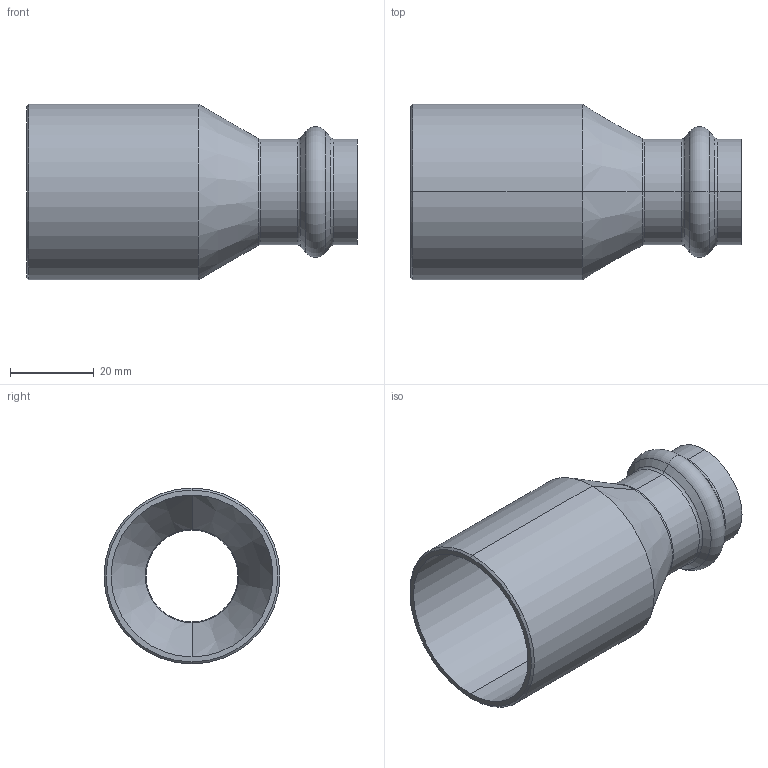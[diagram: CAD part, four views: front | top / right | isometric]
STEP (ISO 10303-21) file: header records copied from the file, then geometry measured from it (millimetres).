
FILE_DESCRIPTION (( 'STEP AP203' ), '1' );
FILE_NAME ('SP5243 42-22.STEP', '2017-04-24T09:11:21', ( '' ), ( '' ), 'SwSTEP 2.0', 'SolidWorks 2016', '' );
FILE_SCHEMA (( 'CONFIG_CONTROL_DESIGN' ));
Length unit declared in the file: millimetre
Products named in the file (1): SP5243 42-22
Bounding box: 79 x 42 x 42 mm (x, y, z)
Volume: 14607.2 mm3; surface area: 18060.5 mm2
Topology: 1 solids, 1 shells, 48 faces, 96 edges, 50 vertices
Faces by surface type: torus 18, cone 16, cylinder 12, plane 2
Entity records: 1313 total; most frequent: DIRECTION 262, CARTESIAN_POINT 195, ORIENTED_EDGE 192, AXIS2_PLACEMENT_3D 117, EDGE_CURVE 96, CIRCLE 68, EDGE_LOOP 50, VERTEX_POINT 50
